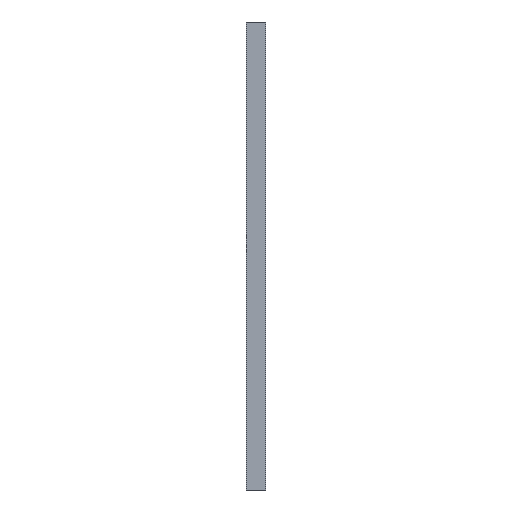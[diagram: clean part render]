
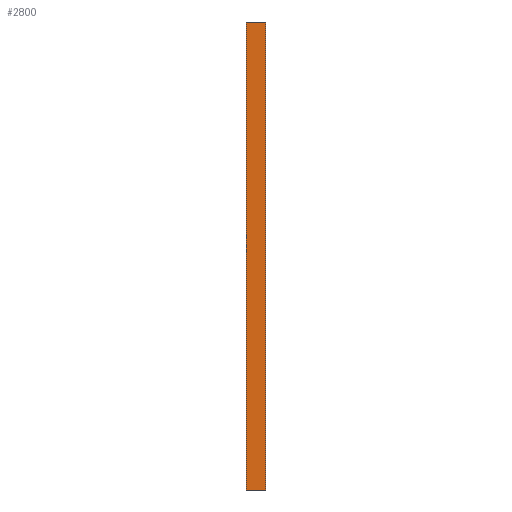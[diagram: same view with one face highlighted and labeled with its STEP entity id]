
A CAD part, left-side view. The second image highlights one B-rep face of the part: STEP entity #2800.
In plain terms, the highlighted planar face has unit normal (-1, 0, 0).
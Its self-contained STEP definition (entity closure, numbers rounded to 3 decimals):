
#174=PLANE('',#3046);
#570=ORIENTED_EDGE('',*,*,#1407,.T.);
#571=ORIENTED_EDGE('',*,*,#1408,.F.);
#572=ORIENTED_EDGE('',*,*,#1387,.F.);
#573=ORIENTED_EDGE('',*,*,#1409,.T.);
#1387=EDGE_CURVE('',#1784,#1785,#1997,.T.);
#1407=EDGE_CURVE('',#1804,#1805,#2004,.T.);
#1408=EDGE_CURVE('',#1785,#1805,#2005,.T.);
#1409=EDGE_CURVE('',#1784,#1804,#2006,.T.);
#1784=VERTEX_POINT('',#4665);
#1785=VERTEX_POINT('',#4667);
#1804=VERTEX_POINT('',#4707);
#1805=VERTEX_POINT('',#4708);
#1997=LINE('',#4666,#2219);
#2004=LINE('',#4706,#2226);
#2005=LINE('',#4709,#2227);
#2006=LINE('',#4710,#2228);
#2219=VECTOR('',#3528,1000.);
#2226=VECTOR('',#3563,1000.);
#2227=VECTOR('',#3564,1000.);
#2228=VECTOR('',#3565,1000.);
#2408=EDGE_LOOP('',(#570,#571,#572,#573));
#2556=FACE_BOUND('',#2408,.T.);
#2800=ADVANCED_FACE('',(#2556),#174,.F.);
#3046=AXIS2_PLACEMENT_3D('',#4705,#3561,#3562);
#3528=DIRECTION('',(0.,-1.,0.));
#3561=DIRECTION('',(1.,0.,0.));
#3562=DIRECTION('',(0.,1.,0.));
#3563=DIRECTION('',(0.,-1.,0.));
#3564=DIRECTION('',(0.,0.,-1.));
#3565=DIRECTION('',(0.,0.,-1.));
#4665=CARTESIAN_POINT('',(-14.,40.5,576.5));
#4666=CARTESIAN_POINT('',(-14.,-7.5,576.5));
#4667=CARTESIAN_POINT('',(-14.,-7.5,576.5));
#4705=CARTESIAN_POINT('',(-14.,-7.5,576.5));
#4706=CARTESIAN_POINT('',(-14.,-7.5,-576.5));
#4707=CARTESIAN_POINT('',(-14.,40.5,-576.5));
#4708=CARTESIAN_POINT('',(-14.,-7.5,-576.5));
#4709=CARTESIAN_POINT('',(-14.,-7.5,576.5));
#4710=CARTESIAN_POINT('',(-14.,40.5,576.5));
